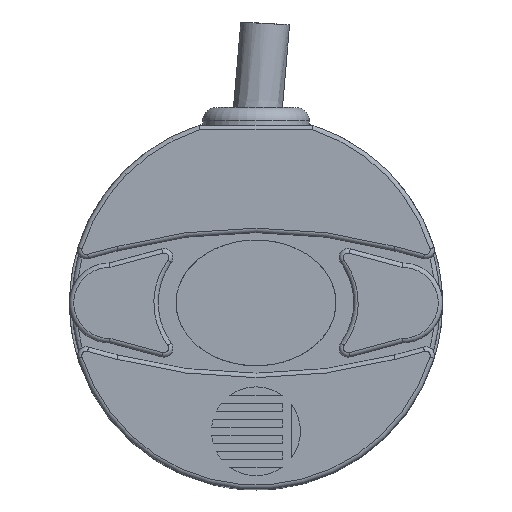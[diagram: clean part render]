
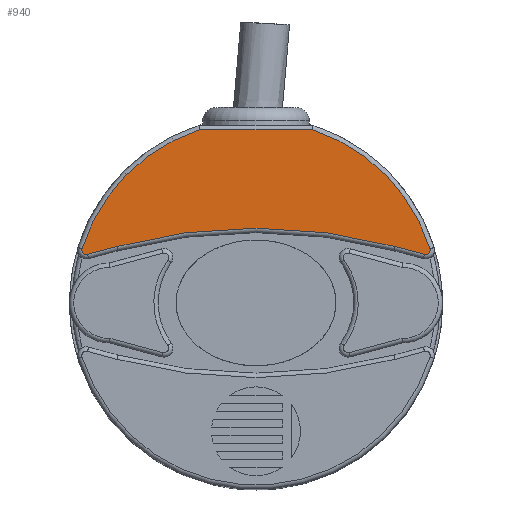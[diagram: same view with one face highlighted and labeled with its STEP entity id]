
A CAD part, top view. The second image highlights one B-rep face of the part: STEP entity #940.
In plain terms, the highlighted planar face has unit normal (0, 0, 1).
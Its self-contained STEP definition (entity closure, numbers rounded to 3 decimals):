
#940 = ADVANCED_FACE( '', ( #1953 ), #1954, .T. );
#1953 = FACE_OUTER_BOUND( '', #5628, .T. );
#1954 = PLANE( '', #5629 );
#5628 = EDGE_LOOP( '', ( #7948, #7949, #7950, #7951, #7952, #7953, #7954, #7955 ) );
#5629 = AXIS2_PLACEMENT_3D( '', #7956, #7957, #7958 );
#7948 = ORIENTED_EDGE( '', *, *, #8119, .T. );
#7949 = ORIENTED_EDGE( '', *, *, #8489, .T. );
#7950 = ORIENTED_EDGE( '', *, *, #8023, .T. );
#7951 = ORIENTED_EDGE( '', *, *, #8007, .T. );
#7952 = ORIENTED_EDGE( '', *, *, #8507, .T. );
#7953 = ORIENTED_EDGE( '', *, *, #8293, .T. );
#7954 = ORIENTED_EDGE( '', *, *, #8648, .T. );
#7955 = ORIENTED_EDGE( '', *, *, #8603, .T. );
#7956 = CARTESIAN_POINT( '', ( 18.971, 5.729, 42.5 ) );
#7957 = DIRECTION( '', ( 0., 0., 1. ) );
#7958 = DIRECTION( '', ( 1., 0., 0. ) );
#8007 = EDGE_CURVE( '', #8931, #8929, #8932, .T. );
#8023 = EDGE_CURVE( '', #8959, #8931, #8960, .T. );
#8119 = EDGE_CURVE( '', #9122, #9127, #9129, .T. );
#8293 = EDGE_CURVE( '', #9414, #9418, #9420, .T. );
#8489 = EDGE_CURVE( '', #9127, #8959, #9727, .T. );
#8507 = EDGE_CURVE( '', #8929, #9414, #9754, .T. );
#8603 = EDGE_CURVE( '', #9891, #9122, #9892, .T. );
#8648 = EDGE_CURVE( '', #9418, #9891, #9949, .T. );
#8929 = VERTEX_POINT( '', #10264 );
#8931 = VERTEX_POINT( '', #10266 );
#8932 = CIRCLE( '', #10267, 0.5 );
#8959 = VERTEX_POINT( '', #10534 );
#8960 = CIRCLE( '', #10535, 20.5 );
#9122 = VERTEX_POINT( '', #10941 );
#9127 = VERTEX_POINT( '', #10946 );
#9129 = CIRCLE( '', #10963, 20.5 );
#9414 = VERTEX_POINT( '', #11535 );
#9418 = VERTEX_POINT( '', #11539 );
#9420 = CIRCLE( '', #11541, 60.5 );
#9727 = LINE( '', #13751, #13752 );
#9754 = LINE( '', #13844, #13845 );
#9891 = VERTEX_POINT( '', #14108 );
#9892 = CIRCLE( '', #14109, 0.5 );
#9949 = LINE( '', #14220, #14221 );
#10264 = CARTESIAN_POINT( '', ( -19.091, 5.246, 42.5 ) );
#10266 = CARTESIAN_POINT( '', ( -19.698, 5.878, 42.5 ) );
#10267 = AXIS2_PLACEMENT_3D( '', #15194, #15195, #15196 );
#10534 = CARTESIAN_POINT( '', ( -6.45, 19.283, 42.5 ) );
#10535 = AXIS2_PLACEMENT_3D( '', #15214, #15215, #15216 );
#10941 = CARTESIAN_POINT( '', ( 19.448, 5.878, 42.5 ) );
#10946 = CARTESIAN_POINT( '', ( 6.2, 19.283, 42.5 ) );
#10963 = AXIS2_PLACEMENT_3D( '', #15339, #15340, #15341 );
#11535 = CARTESIAN_POINT( '', ( -15.784, 6.132, 42.5 ) );
#11539 = CARTESIAN_POINT( '', ( 15.534, 6.132, 42.5 ) );
#11541 = AXIS2_PLACEMENT_3D( '', #15557, #15558, #15559 );
#13751 = CARTESIAN_POINT( '', ( 18.971, 19.283, 42.5 ) );
#13752 = VECTOR( '', #15796, 1000. );
#13844 = CARTESIAN_POINT( '', ( -15.784, 6.132, 42.5 ) );
#13845 = VECTOR( '', #15816, 1000. );
#14108 = CARTESIAN_POINT( '', ( 18.841, 5.246, 42.5 ) );
#14109 = AXIS2_PLACEMENT_3D( '', #15931, #15932, #15933 );
#14220 = CARTESIAN_POINT( '', ( 18.841, 5.246, 42.5 ) );
#14221 = VECTOR( '', #15991, 1000. );
#15194 = CARTESIAN_POINT( '', ( -19.221, 5.729, 42.5 ) );
#15195 = DIRECTION( '', ( 0., 0., 1. ) );
#15196 = DIRECTION( '', ( 0., 1., 0. ) );
#15214 = CARTESIAN_POINT( '', ( -0.125, -0.217, 42.5 ) );
#15215 = DIRECTION( '', ( 0., 0., 1. ) );
#15216 = DIRECTION( '', ( 0., 1., 0. ) );
#15339 = CARTESIAN_POINT( '', ( -0.125, -0.217, 42.5 ) );
#15340 = DIRECTION( '', ( 0., 0., 1. ) );
#15341 = DIRECTION( '', ( 0., 1., 0. ) );
#15557 = CARTESIAN_POINT( '', ( -0.125, -52.306, 42.5 ) );
#15558 = DIRECTION( '', ( 0., 0., -1. ) );
#15559 = DIRECTION( '', ( 0., 1., 0. ) );
#15796 = DIRECTION( '', ( -1., 0., 0. ) );
#15816 = DIRECTION( '', ( 0.966, 0.259, 0. ) );
#15931 = CARTESIAN_POINT( '', ( 18.971, 5.729, 42.5 ) );
#15932 = DIRECTION( '', ( 0., 0., 1. ) );
#15933 = DIRECTION( '', ( 0., 1., 0. ) );
#15991 = DIRECTION( '', ( 0.966, -0.259, 0. ) );
